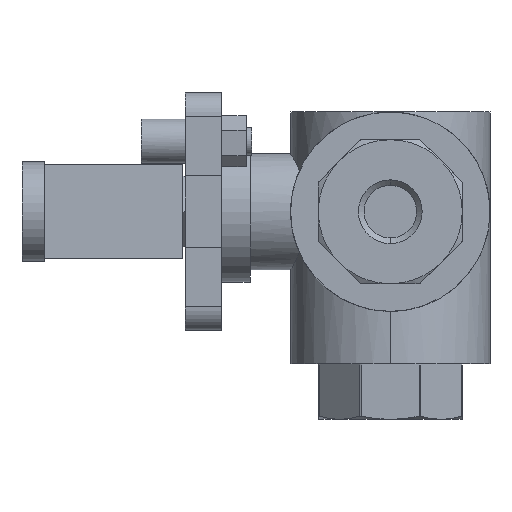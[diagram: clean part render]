
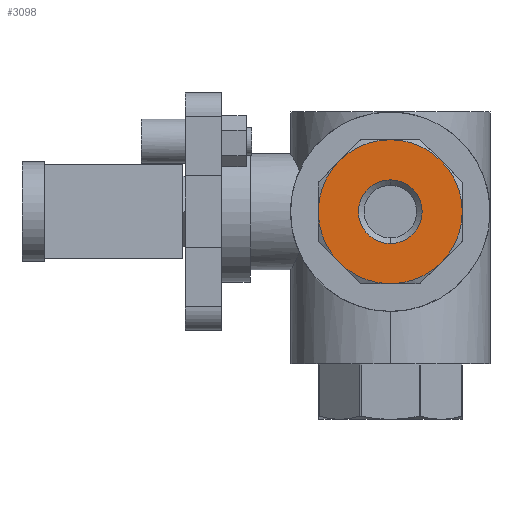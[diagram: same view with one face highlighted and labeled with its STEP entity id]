
A CAD part, left-side view. The second image highlights one B-rep face of the part: STEP entity #3098.
In plain terms, the highlighted planar face has unit normal (-1, 0, 0).
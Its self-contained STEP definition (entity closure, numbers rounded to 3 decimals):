
#126 = DIRECTION ( 'NONE',  ( -1., 0., 0. ) ) ;
#280 = DIRECTION ( 'NONE',  ( 0., 0., 1. ) ) ;
#289 = ORIENTED_EDGE ( 'NONE', *, *, #5003, .F. ) ;
#370 = ORIENTED_EDGE ( 'NONE', *, *, #6372, .F. ) ;
#432 = PLANE ( 'NONE',  #2413 ) ;
#536 = CARTESIAN_POINT ( 'NONE',  ( -37.5, 0., 0. ) ) ;
#549 = VERTEX_POINT ( 'NONE', #2370 ) ;
#634 = CIRCLE ( 'NONE', #4175, 13. ) ;
#725 = ORIENTED_EDGE ( 'NONE', *, *, #2468, .T. ) ;
#818 = CIRCLE ( 'NONE', #4066, 13. ) ;
#867 = CARTESIAN_POINT ( 'NONE',  ( -37.5, 9.192, -9.192 ) ) ;
#1009 = VERTEX_POINT ( 'NONE', #867 ) ;
#1011 = AXIS2_PLACEMENT_3D ( 'NONE', #5201, #2177, #5694 ) ;
#1024 = CARTESIAN_POINT ( 'NONE',  ( -37.5, 0., 0. ) ) ;
#1052 = DIRECTION ( 'NONE',  ( 0., 0., 1. ) ) ;
#1120 = CIRCLE ( 'NONE', #2172, 13. ) ;
#1415 = CARTESIAN_POINT ( 'NONE',  ( -37.5, 0., 0. ) ) ;
#1453 = DIRECTION ( 'NONE',  ( 0., 0., -1. ) ) ;
#1519 = DIRECTION ( 'NONE',  ( 0., 0., 1. ) ) ;
#1528 = VERTEX_POINT ( 'NONE', #3208 ) ;
#1752 = CARTESIAN_POINT ( 'NONE',  ( -37.5, 0., 13. ) ) ;
#1824 = EDGE_CURVE ( 'NONE', #6178, #5899, #2087, .T. ) ;
#1857 = DIRECTION ( 'NONE',  ( -1., 0., 0. ) ) ;
#1887 = AXIS2_PLACEMENT_3D ( 'NONE', #536, #4028, #1052 ) ;
#1913 = DIRECTION ( 'NONE',  ( 0., 0., 1. ) ) ;
#1954 = CARTESIAN_POINT ( 'NONE',  ( -37.5, -13., 0. ) ) ;
#2071 = FACE_BOUND ( 'NONE', #4011, .T. ) ;
#2087 = CIRCLE ( 'NONE', #6195, 13. ) ;
#2089 = EDGE_CURVE ( 'NONE', #1009, #6385, #5703, .T. ) ;
#2172 = AXIS2_PLACEMENT_3D ( 'NONE', #1024, #4511, #1519 ) ;
#2177 = DIRECTION ( 'NONE',  ( -1., 0., 0. ) ) ;
#2370 = CARTESIAN_POINT ( 'NONE',  ( -37.5, 0., 5.75 ) ) ;
#2397 = FACE_OUTER_BOUND ( 'NONE', #6335, .T. ) ;
#2413 = AXIS2_PLACEMENT_3D ( 'NONE', #3935, #4438, #1453 ) ;
#2468 = EDGE_CURVE ( 'NONE', #6436, #4820, #2475, .T. ) ;
#2475 = CIRCLE ( 'NONE', #3324, 13. ) ;
#2488 = CARTESIAN_POINT ( 'NONE',  ( -37.5, 0., 0. ) ) ;
#2585 = DIRECTION ( 'NONE',  ( -1., 0., 0. ) ) ;
#2709 = VERTEX_POINT ( 'NONE', #4486 ) ;
#2873 = CARTESIAN_POINT ( 'NONE',  ( -37.5, 0., 0. ) ) ;
#2888 = ORIENTED_EDGE ( 'NONE', *, *, #3762, .T. ) ;
#2979 = DIRECTION ( 'NONE',  ( 0., 0., 1. ) ) ;
#3055 = CIRCLE ( 'NONE', #1011, 13. ) ;
#3061 = ORIENTED_EDGE ( 'NONE', *, *, #1824, .T. ) ;
#3065 = CIRCLE ( 'NONE', #4708, 5.75 ) ;
#3071 = CIRCLE ( 'NONE', #5262, 5.75 ) ;
#3090 = ORIENTED_EDGE ( 'NONE', *, *, #5746, .T. ) ;
#3098 = ADVANCED_FACE ( 'NONE', ( #2071, #2397 ), #432, .F. ) ;
#3132 = CARTESIAN_POINT ( 'NONE',  ( -37.5, 0., 0. ) ) ;
#3208 = CARTESIAN_POINT ( 'NONE',  ( -37.5, 13., 0. ) ) ;
#3223 = CARTESIAN_POINT ( 'NONE',  ( -37.5, -9.192, 9.192 ) ) ;
#3295 = DIRECTION ( 'NONE',  ( -1., 0., 0. ) ) ;
#3320 = EDGE_CURVE ( 'NONE', #5899, #1528, #818, .T. ) ;
#3324 = AXIS2_PLACEMENT_3D ( 'NONE', #6321, #3295, #280 ) ;
#3392 = DIRECTION ( 'NONE',  ( 0., 0., 1. ) ) ;
#3406 = ORIENTED_EDGE ( 'NONE', *, *, #3320, .T. ) ;
#3431 = CARTESIAN_POINT ( 'NONE',  ( -37.5, -9.192, -9.192 ) ) ;
#3634 = DIRECTION ( 'NONE',  ( 0., 0., 1. ) ) ;
#3719 = ORIENTED_EDGE ( 'NONE', *, *, #5656, .T. ) ;
#3762 = EDGE_CURVE ( 'NONE', #1528, #1009, #5450, .T. ) ;
#3935 = CARTESIAN_POINT ( 'NONE',  ( -37.5, 5.75, 0. ) ) ;
#4011 = EDGE_LOOP ( 'NONE', ( #370, #289 ) ) ;
#4028 = DIRECTION ( 'NONE',  ( -1., 0., 0. ) ) ;
#4066 = AXIS2_PLACEMENT_3D ( 'NONE', #2488, #6018, #2979 ) ;
#4175 = AXIS2_PLACEMENT_3D ( 'NONE', #5602, #2585, #6121 ) ;
#4438 = DIRECTION ( 'NONE',  ( 1., 0., 0. ) ) ;
#4462 = VERTEX_POINT ( 'NONE', #3431 ) ;
#4486 = CARTESIAN_POINT ( 'NONE',  ( -37.5, 0., -5.75 ) ) ;
#4511 = DIRECTION ( 'NONE',  ( -1., 0., 0. ) ) ;
#4708 = AXIS2_PLACEMENT_3D ( 'NONE', #1415, #4929, #1913 ) ;
#4820 = VERTEX_POINT ( 'NONE', #3223 ) ;
#4865 = CARTESIAN_POINT ( 'NONE',  ( -37.5, 0., 0. ) ) ;
#4929 = DIRECTION ( 'NONE',  ( -1., 0., 0. ) ) ;
#5003 = EDGE_CURVE ( 'NONE', #2709, #549, #3071, .T. ) ;
#5183 = ORIENTED_EDGE ( 'NONE', *, *, #6057, .T. ) ;
#5201 = CARTESIAN_POINT ( 'NONE',  ( -37.5, 0., 0. ) ) ;
#5262 = AXIS2_PLACEMENT_3D ( 'NONE', #3132, #126, #3634 ) ;
#5328 = AXIS2_PLACEMENT_3D ( 'NONE', #4865, #1857, #5392 ) ;
#5392 = DIRECTION ( 'NONE',  ( 0., 0., 1. ) ) ;
#5450 = CIRCLE ( 'NONE', #5328, 13. ) ;
#5602 = CARTESIAN_POINT ( 'NONE',  ( -37.5, 0., 0. ) ) ;
#5656 = EDGE_CURVE ( 'NONE', #6385, #4462, #1120, .T. ) ;
#5694 = DIRECTION ( 'NONE',  ( 0., 0., 1. ) ) ;
#5703 = CIRCLE ( 'NONE', #1887, 13. ) ;
#5746 = EDGE_CURVE ( 'NONE', #4462, #6436, #634, .T. ) ;
#5752 = CARTESIAN_POINT ( 'NONE',  ( -37.5, 9.192, 9.192 ) ) ;
#5813 = ORIENTED_EDGE ( 'NONE', *, *, #2089, .T. ) ;
#5899 = VERTEX_POINT ( 'NONE', #5752 ) ;
#6018 = DIRECTION ( 'NONE',  ( -1., 0., 0. ) ) ;
#6057 = EDGE_CURVE ( 'NONE', #4820, #6178, #3055, .T. ) ;
#6121 = DIRECTION ( 'NONE',  ( 0., 0., 1. ) ) ;
#6178 = VERTEX_POINT ( 'NONE', #1752 ) ;
#6195 = AXIS2_PLACEMENT_3D ( 'NONE', #2873, #6422, #3392 ) ;
#6321 = CARTESIAN_POINT ( 'NONE',  ( -37.5, 0., 0. ) ) ;
#6335 = EDGE_LOOP ( 'NONE', ( #3061, #3406, #2888, #5813, #3719, #3090, #725, #5183 ) ) ;
#6372 = EDGE_CURVE ( 'NONE', #549, #2709, #3065, .T. ) ;
#6385 = VERTEX_POINT ( 'NONE', #6449 ) ;
#6422 = DIRECTION ( 'NONE',  ( -1., 0., 0. ) ) ;
#6436 = VERTEX_POINT ( 'NONE', #1954 ) ;
#6449 = CARTESIAN_POINT ( 'NONE',  ( -37.5, 0., -13. ) ) ;
